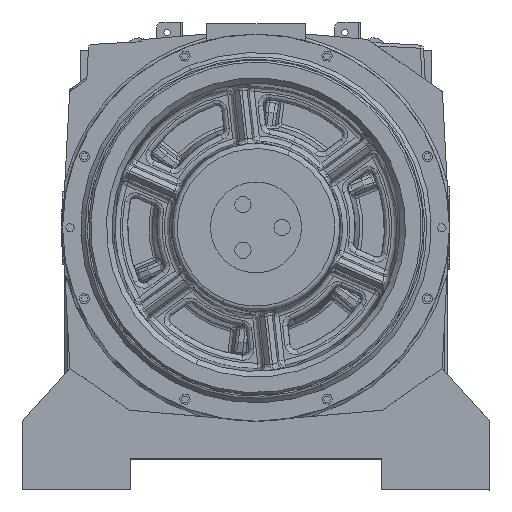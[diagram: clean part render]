
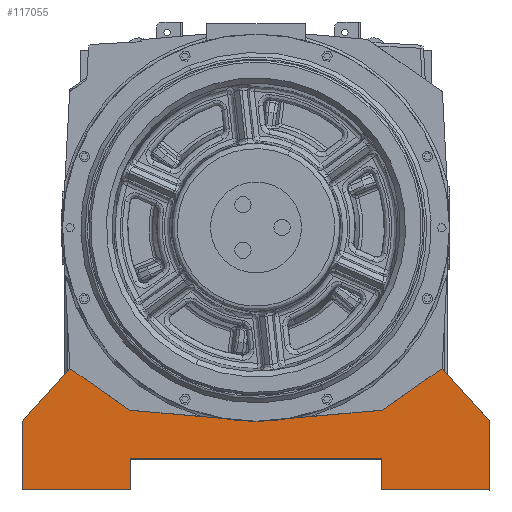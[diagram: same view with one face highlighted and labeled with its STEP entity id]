
A CAD part, top view. The second image highlights one B-rep face of the part: STEP entity #117055.
In plain terms, the highlighted planar face has unit normal (0, 0, 1).
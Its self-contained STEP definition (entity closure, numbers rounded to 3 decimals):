
#223 = ORIENTED_EDGE ( 'NONE', *, *, #55924, .T. ) ;
#875 = VERTEX_POINT ( 'NONE', #7509 ) ;
#3684 = VECTOR ( 'NONE', #150460, 1000. ) ;
#7509 = CARTESIAN_POINT ( 'NONE',  ( -364.626, -146.617, 255. ) ) ;
#7574 = VECTOR ( 'NONE', #116087, 1000. ) ;
#9360 = VERTEX_POINT ( 'NONE', #101812 ) ;
#11171 = DIRECTION ( 'NONE',  ( 1., 0., 0. ) ) ;
#11304 = VERTEX_POINT ( 'NONE', #22478 ) ;
#14846 = CARTESIAN_POINT ( 'NONE',  ( -361.626, -146.617, 255. ) ) ;
#15045 = EDGE_CURVE ( 'NONE', #109220, #9360, #101845, .T. ) ;
#15352 = CARTESIAN_POINT ( 'NONE',  ( 36.284, -95.466, 255. ) ) ;
#15499 = VECTOR ( 'NONE', #93868, 1000. ) ;
#17190 = ORIENTED_EDGE ( 'NONE', *, *, #33521, .F. ) ;
#17293 = DIRECTION ( 'NONE',  ( 0., 0., -1. ) ) ;
#17567 = EDGE_CURVE ( 'NONE', #121926, #109220, #36638, .T. ) ;
#19944 = DIRECTION ( 'NONE',  ( 1., 0., 0. ) ) ;
#20841 = VERTEX_POINT ( 'NONE', #84787 ) ;
#20962 = DIRECTION ( 'NONE',  ( -0.819, 0.574, 0. ) ) ;
#22478 = CARTESIAN_POINT ( 'NONE',  ( -319.691, -94.225, 255. ) ) ;
#23689 = EDGE_CURVE ( 'NONE', #56424, #33002, #150335, .T. ) ;
#24371 = ORIENTED_EDGE ( 'NONE', *, *, #71009, .T. ) ;
#28485 = EDGE_CURVE ( 'NONE', #119544, #121926, #113832, .T. ) ;
#29180 = ORIENTED_EDGE ( 'NONE', *, *, #128064, .T. ) ;
#29671 = LINE ( 'NONE', #102329, #50621 ) ;
#30181 = CARTESIAN_POINT ( 'NONE',  ( -319.626, -95.466, 255. ) ) ;
#31275 = VECTOR ( 'NONE', #92221, 1000. ) ;
#32458 = VECTOR ( 'NONE', #19944, 1000. ) ;
#32968 = AXIS2_PLACEMENT_3D ( 'NONE', #14846, #75942, #64315 ) ;
#33002 = VERTEX_POINT ( 'NONE', #55104 ) ;
#33042 = DIRECTION ( 'NONE',  ( -0.819, 0.574, 0. ) ) ;
#33521 = EDGE_CURVE ( 'NONE', #122632, #134541, #57642, .T. ) ;
#33534 = EDGE_CURVE ( 'NONE', #33002, #119544, #115614, .T. ) ;
#34606 = CARTESIAN_POINT ( 'NONE',  ( -326.164, 29.294, 255. ) ) ;
#34618 = DIRECTION ( 'NONE',  ( -1., 0., 0. ) ) ;
#34785 = ORIENTED_EDGE ( 'NONE', *, *, #136717, .T. ) ;
#35121 = CARTESIAN_POINT ( 'NONE',  ( -261.671, -136.046, 255. ) ) ;
#35386 = LINE ( 'NONE', #142090, #78888 ) ;
#35834 = CARTESIAN_POINT ( 'NONE',  ( -363.856, -144.61, 255. ) ) ;
#36638 = LINE ( 'NONE', #60560, #120242 ) ;
#38304 = ORIENTED_EDGE ( 'NONE', *, *, #132559, .T. ) ;
#38688 = DIRECTION ( 'NONE',  ( 0., -1., 0. ) ) ;
#38717 = ORIENTED_EDGE ( 'NONE', *, *, #39670, .T. ) ;
#39452 = VERTEX_POINT ( 'NONE', #35834 ) ;
#39670 = EDGE_CURVE ( 'NONE', #9360, #126031, #140821, .T. ) ;
#40900 = LINE ( 'NONE', #138293, #64531 ) ;
#40999 = CARTESIAN_POINT ( 'NONE',  ( -261.671, -182.036, 255. ) ) ;
#45789 = ORIENTED_EDGE ( 'NONE', *, *, #15045, .T. ) ;
#45866 = ORIENTED_EDGE ( 'NONE', *, *, #23689, .T. ) ;
#46024 = PLANE ( 'NONE',  #135626 ) ;
#46772 = CARTESIAN_POINT ( 'NONE',  ( -141.671, 38.963, 255. ) ) ;
#47916 = VECTOR ( 'NONE', #93996, 1000. ) ;
#48889 = VECTOR ( 'NONE', #145308, 1000. ) ;
#50621 = VECTOR ( 'NONE', #79122, 1000. ) ;
#51022 = EDGE_CURVE ( 'NONE', #121854, #39452, #125309, .T. ) ;
#54902 = DIRECTION ( 'NONE',  ( -0.669, -0.743, 0. ) ) ;
#55104 = CARTESIAN_POINT ( 'NONE',  ( -20.842, -135.466, 255. ) ) ;
#55851 = EDGE_CURVE ( 'NONE', #59350, #87922, #146839, .T. ) ;
#55924 = EDGE_CURVE ( 'NONE', #56020, #20841, #40900, .T. ) ;
#56020 = VERTEX_POINT ( 'NONE', #150662 ) ;
#56424 = VERTEX_POINT ( 'NONE', #152053 ) ;
#57642 = LINE ( 'NONE', #81591, #47916 ) ;
#57727 = EDGE_LOOP ( 'NONE', ( #24371, #17190, #29180, #108363, #34785, #83095, #223, #151833, #45866, #113242, #79891, #131376, #45789, #38717, #104629, #38304, #102199, #122327 ) ) ;
#59350 = VERTEX_POINT ( 'NONE', #40999 ) ;
#60560 = CARTESIAN_POINT ( 'NONE',  ( -261.671, -134.363, 255. ) ) ;
#64315 = DIRECTION ( 'NONE',  ( -1., 0., 0. ) ) ;
#64531 = VECTOR ( 'NONE', #112731, 1000. ) ;
#65224 = CARTESIAN_POINT ( 'NONE',  ( -322.687, -94.382, 255. ) ) ;
#68616 = VERTEX_POINT ( 'NONE', #106351 ) ;
#69123 = CARTESIAN_POINT ( 'NONE',  ( -20.842, -135.466, 255. ) ) ;
#71009 = EDGE_CURVE ( 'NONE', #875, #134541, #130777, .T. ) ;
#72257 = CARTESIAN_POINT ( 'NONE',  ( -320.457, -96.389, 255. ) ) ;
#74684 = CARTESIAN_POINT ( 'NONE',  ( -319.626, -95.466, 255. ) ) ;
#74791 = VECTOR ( 'NONE', #20962, 1000. ) ;
#75942 = DIRECTION ( 'NONE',  ( 0., 0., 1. ) ) ;
#78888 = VECTOR ( 'NONE', #34618, 1000. ) ;
#79122 = DIRECTION ( 'NONE',  ( 0., 1., 0. ) ) ;
#79891 = ORIENTED_EDGE ( 'NONE', *, *, #28485, .T. ) ;
#80822 = CARTESIAN_POINT ( 'NONE',  ( -141.671, -146.037, 255. ) ) ;
#81525 = FACE_OUTER_BOUND ( 'NONE', #57727, .T. ) ;
#81591 = CARTESIAN_POINT ( 'NONE',  ( -364.626, -211.036, 255. ) ) ;
#83095 = ORIENTED_EDGE ( 'NONE', *, *, #144983, .F. ) ;
#84787 = CARTESIAN_POINT ( 'NONE',  ( 81.284, -145.466, 255. ) ) ;
#86011 = DIRECTION ( 'NONE',  ( 0., -1., 0. ) ) ;
#86097 = CARTESIAN_POINT ( 'NONE',  ( -261.671, -135.538, 255. ) ) ;
#87922 = VERTEX_POINT ( 'NONE', #91434 ) ;
#89930 = VECTOR ( 'NONE', #38688, 1000. ) ;
#91434 = CARTESIAN_POINT ( 'NONE',  ( -21.671, -182.036, 255. ) ) ;
#92221 = DIRECTION ( 'NONE',  ( -0.996, 0.087, 0. ) ) ;
#93868 = DIRECTION ( 'NONE',  ( -0.819, -0.574, 0. ) ) ;
#93996 = DIRECTION ( 'NONE',  ( -1., 0., 0. ) ) ;
#99266 = CARTESIAN_POINT ( 'NONE',  ( -261.671, -211.036, 255. ) ) ;
#99614 = CIRCLE ( 'NONE', #32968, 3. ) ;
#101812 = CARTESIAN_POINT ( 'NONE',  ( -262.5, -135.466, 255. ) ) ;
#101845 = LINE ( 'NONE', #149050, #105172 ) ;
#102199 = ORIENTED_EDGE ( 'NONE', *, *, #51022, .T. ) ;
#102242 = EDGE_CURVE ( 'NONE', #11304, #126031, #128175, .T. ) ;
#102329 = CARTESIAN_POINT ( 'NONE',  ( -261.671, -225.036, 255. ) ) ;
#104629 = ORIENTED_EDGE ( 'NONE', *, *, #102242, .F. ) ;
#105172 = VECTOR ( 'NONE', #33042, 1000. ) ;
#106351 = CARTESIAN_POINT ( 'NONE',  ( -21.671, -211.036, 255. ) ) ;
#108280 = AXIS2_PLACEMENT_3D ( 'NONE', #65224, #17293, #111606 ) ;
#108363 = ORIENTED_EDGE ( 'NONE', *, *, #55851, .T. ) ;
#109220 = VERTEX_POINT ( 'NONE', #35121 ) ;
#111606 = DIRECTION ( 'NONE',  ( -1., 0., 0. ) ) ;
#112731 = DIRECTION ( 'NONE',  ( 0., 1., 0. ) ) ;
#113242 = ORIENTED_EDGE ( 'NONE', *, *, #33534, .T. ) ;
#113693 = EDGE_CURVE ( 'NONE', #20841, #56424, #121306, .T. ) ;
#113832 = LINE ( 'NONE', #138636, #31275 ) ;
#115614 = LINE ( 'NONE', #80822, #3684 ) ;
#116087 = DIRECTION ( 'NONE',  ( 0., -1., 0. ) ) ;
#117055 = ADVANCED_FACE ( 'NONE', ( #81525 ), #46024, .F. ) ;
#119123 = CARTESIAN_POINT ( 'NONE',  ( -364.626, -145.466, 255. ) ) ;
#119544 = VERTEX_POINT ( 'NONE', #132672 ) ;
#120242 = VECTOR ( 'NONE', #86011, 1000. ) ;
#121306 = LINE ( 'NONE', #15352, #48889 ) ;
#121854 = VERTEX_POINT ( 'NONE', #72257 ) ;
#121926 = VERTEX_POINT ( 'NONE', #86097 ) ;
#122327 = ORIENTED_EDGE ( 'NONE', *, *, #151493, .T. ) ;
#122632 = VERTEX_POINT ( 'NONE', #99266 ) ;
#123078 = CARTESIAN_POINT ( 'NONE',  ( -364.626, -211.036, 255. ) ) ;
#125309 = LINE ( 'NONE', #30181, #134509 ) ;
#126031 = VERTEX_POINT ( 'NONE', #74684 ) ;
#126920 = CARTESIAN_POINT ( 'NONE',  ( -261.671, -136.046, 255. ) ) ;
#128064 = EDGE_CURVE ( 'NONE', #122632, #59350, #29671, .T. ) ;
#128135 = CIRCLE ( 'NONE', #108280, 3. ) ;
#128175 = LINE ( 'NONE', #34606, #133915 ) ;
#130777 = LINE ( 'NONE', #119123, #89930 ) ;
#131376 = ORIENTED_EDGE ( 'NONE', *, *, #17567, .T. ) ;
#132559 = EDGE_CURVE ( 'NONE', #11304, #121854, #128135, .T. ) ;
#132672 = CARTESIAN_POINT ( 'NONE',  ( -141.671, -146.037, 255. ) ) ;
#133915 = VECTOR ( 'NONE', #137473, 1000. ) ;
#134509 = VECTOR ( 'NONE', #54902, 1000. ) ;
#134541 = VERTEX_POINT ( 'NONE', #123078 ) ;
#135236 = CARTESIAN_POINT ( 'NONE',  ( -261.671, -182.036, 255. ) ) ;
#135626 = AXIS2_PLACEMENT_3D ( 'NONE', #46772, #141112, #11171 ) ;
#136263 = LINE ( 'NONE', #139345, #7574 ) ;
#136717 = EDGE_CURVE ( 'NONE', #87922, #68616, #136263, .T. ) ;
#137473 = DIRECTION ( 'NONE',  ( 0.052, -0.999, 0. ) ) ;
#138293 = CARTESIAN_POINT ( 'NONE',  ( 81.284, -145.466, 255. ) ) ;
#138636 = CARTESIAN_POINT ( 'NONE',  ( -141.671, -146.037, 255. ) ) ;
#139345 = CARTESIAN_POINT ( 'NONE',  ( -21.671, -225.036, 255. ) ) ;
#140821 = LINE ( 'NONE', #126920, #74791 ) ;
#141112 = DIRECTION ( 'NONE',  ( 0., 0., -1. ) ) ;
#142090 = CARTESIAN_POINT ( 'NONE',  ( -364.626, -211.036, 255. ) ) ;
#144983 = EDGE_CURVE ( 'NONE', #56020, #68616, #35386, .T. ) ;
#145308 = DIRECTION ( 'NONE',  ( -0.669, 0.743, 0. ) ) ;
#146839 = LINE ( 'NONE', #135236, #32458 ) ;
#149050 = CARTESIAN_POINT ( 'NONE',  ( -261.671, -136.046, 255. ) ) ;
#150335 = LINE ( 'NONE', #69123, #15499 ) ;
#150460 = DIRECTION ( 'NONE',  ( -0.996, -0.087, 0. ) ) ;
#150662 = CARTESIAN_POINT ( 'NONE',  ( 81.284, -211.036, 255. ) ) ;
#151493 = EDGE_CURVE ( 'NONE', #39452, #875, #99614, .T. ) ;
#151833 = ORIENTED_EDGE ( 'NONE', *, *, #113693, .T. ) ;
#152053 = CARTESIAN_POINT ( 'NONE',  ( 36.284, -95.466, 255. ) ) ;
